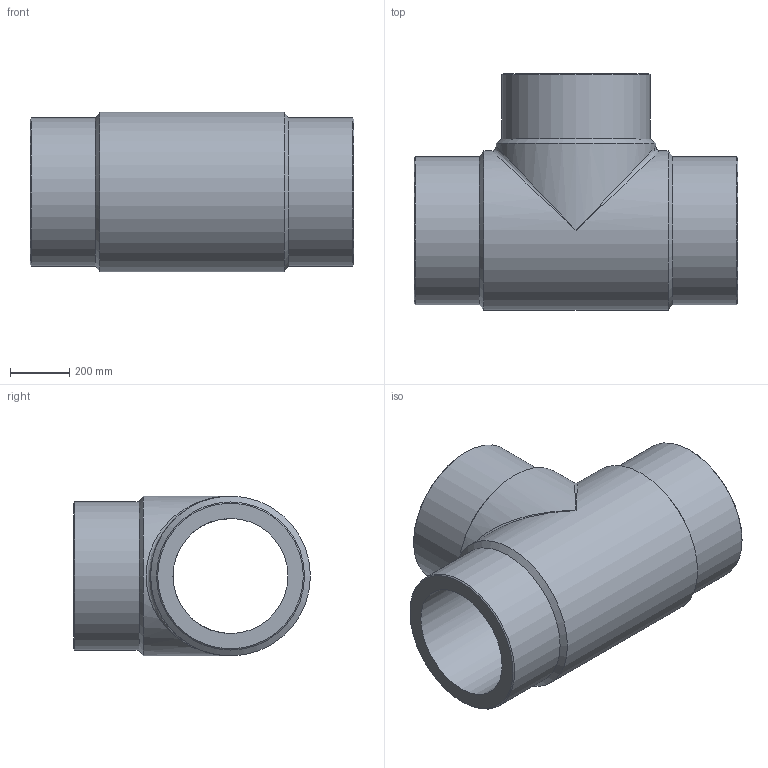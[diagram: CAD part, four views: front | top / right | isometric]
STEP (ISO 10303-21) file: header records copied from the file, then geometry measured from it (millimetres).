
FILE_DESCRIPTION(/* description */ ('Unknown'),/* implementation_level */ '2;1');
FILE_NAME(/* name */ 'TP500G',/* time_stamp */ '2022-06-06T17:04:09+02:00',/* author */ ('Unknown'),/* organization */ ('Unknown'),/* preprocessor_version */ 'ST-DEVELOPER v18.102',/* originating_system */ 'Solid Edge',/* authorisation */ 'Unknown');
FILE_SCHEMA (('AUTOMOTIVE_DESIGN {1 0 10303 214 3 1 1}'));
Length unit declared in the file: millimetre
Products named in the file (1): TP500G
Bounding box: 1094 x 800 x 540 mm (x, y, z)
Volume: 124150547.3 mm3; surface area: 4032867.9 mm2
Topology: 1 solids, 1 shells, 18 faces, 44 edges, 23 vertices
Faces by surface type: cylinder 7, cone 6, plane 3, bspline 2
Full cylindrical faces by diameter (mm): 388.4 x2, 500 x3, 540 x2
Entity records: 528 total; most frequent: CARTESIAN_POINT 171, DIRECTION 76, ORIENTED_EDGE 42, AXIS2_PLACEMENT_3D 38, EDGE_LOOP 36, FACE_BOUND 36, EDGE_CURVE 21, VERTEX_POINT 19
